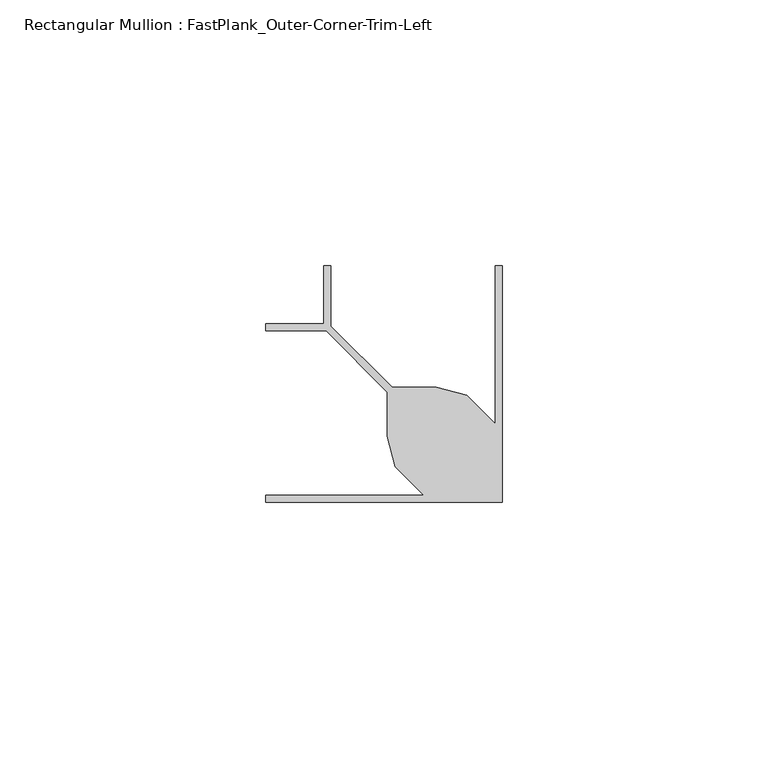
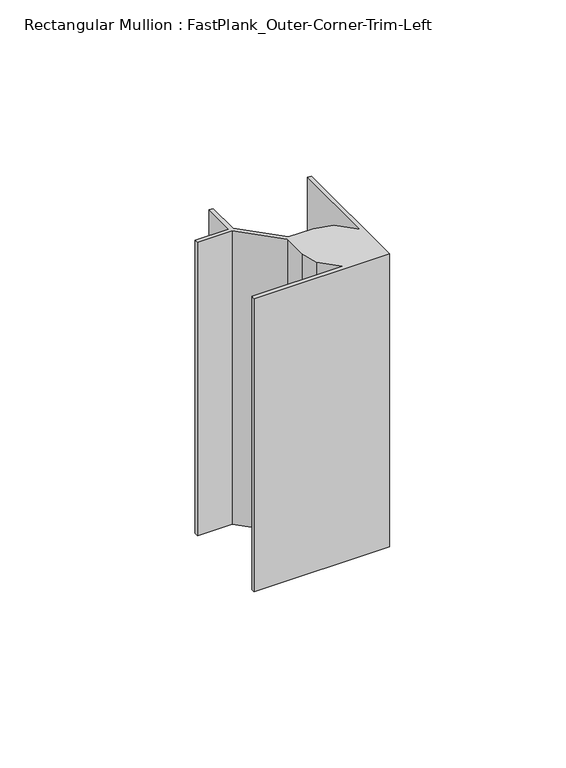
"""IFC4 building model written with IfcOpenShell, lengths in millimetres: member geometry, Rectangular Mullion : FastPlank_Outer-Corner-Trim-Left."""

import ifcopenshell
import ifcopenshell.guid

model = None  # the IFC model being written
_history = None  # IfcOwnerHistory: only IFC2X3 demands one
_inside = {}  # id of a spatial element -> (the spatial element, [elements in it])
_under = {}  # id of a project, library or spatial element -> (it, [spatial elements below it])
_declared = {}  # id of a project -> (the project, [libraries it declares])
_typed = {}  # id of a type object -> (the type object, [elements of that type])
_made_of = {}  # id of a material, layer set ... -> (it, [elements and type objects made of it])


def new_model(schema):
    """Start an empty IFC model of exactly this schema.

    Asked for "IFC4X3", IfcOpenShell would pick the latest addendum, in which some entities
    have other attributes; the version numbers below select the first issue.
    IFC2X3 requires an IfcOwnerHistory on every rooted entity: one is made here for all.
    """
    global model, _history
    if schema == "IFC4X3":
        model = ifcopenshell.file(schema_version=(4, 3, 0, 0))
    else:
        model = ifcopenshell.file(schema=schema)
    _inside.clear()
    _under.clear()
    _declared.clear()
    _typed.clear()
    _made_of.clear()
    _history = None
    if model.schema == "IFC2X3":
        org = make("IfcOrganization", Name="unknown")
        user = make(
            "IfcPersonAndOrganization",
            ThePerson=make("IfcPerson", FamilyName="unknown"),
            TheOrganization=org,
        )
        app = make(
            "IfcApplication",
            ApplicationDeveloper=org,
            Version="unknown",
            ApplicationFullName="unknown",
            ApplicationIdentifier="unknown",
        )
        _history = make(
            "IfcOwnerHistory",
            OwningUser=user,
            OwningApplication=app,
            ChangeAction="ADDED",
            CreationDate=0,
        )
    return model


def make(cls, **values):
    """One entity of the class cls with the attributes given. An attribute that is None is left unset."""
    return model.create_entity(
        cls, **{name: value for name, value in values.items() if value is not None}
    )


def rooted(cls, **values):
    """An entity with a GlobalId (a new one), such as an element, a storey or a relation."""
    return make(cls, GlobalId=ifcopenshell.guid.new(), OwnerHistory=_history, **values)


def si_unit(unit_type, name, prefix=None):
    """IfcSIUnit, for example si_unit("LENGTHUNIT", "METRE", prefix="MILLI")."""
    return make("IfcSIUnit", UnitType=unit_type, Prefix=prefix, Name=name)


def assignment(units):
    """IfcUnitAssignment: the units of a project."""
    return None if units is None else make("IfcUnitAssignment", Units=units)


def point(xyz):
    """IfcCartesianPoint."""
    return None if xyz is None else make("IfcCartesianPoint", Coordinates=xyz)


def direction(xyz):
    """IfcDirection."""
    return None if xyz is None else make("IfcDirection", DirectionRatios=xyz)


def frame(location, z_axis=None, x_axis=None):
    """IfcAxis2Placement3D, a coordinate frame: its origin and axes. An axis left out is left unset."""
    return make(
        "IfcAxis2Placement3D",
        Location=point(location),
        Axis=direction(z_axis),
        RefDirection=direction(x_axis),
    )


def origin():
    """The frame at (0, 0, 0) with its axes left unset."""
    return frame((0.0, 0.0, 0.0))


def place(relative_to, where):
    """IfcLocalPlacement: puts the frame where relative to a parent placement (None: the world)."""
    return make(
        "IfcLocalPlacement", PlacementRelTo=relative_to, RelativePlacement=where
    )


def context(
    kind, dimensions, precision=None, world=None, true_north=None, identifier=None
):
    """IfcGeometricRepresentationContext, for example the 3D "Model" context."""
    return make(
        "IfcGeometricRepresentationContext",
        ContextIdentifier=identifier,
        ContextType=kind,
        CoordinateSpaceDimension=dimensions,
        Precision=precision,
        WorldCoordinateSystem=world,
        TrueNorth=true_north,
    )


def project(units=None, contexts=None):
    """IfcProject with its units and contexts."""
    return rooted(
        "IfcProject",
        Name="project",
        RepresentationContexts=contexts,
        UnitsInContext=assignment(units),
    )


def spatial(cls, under=None, at=None, **own):
    """A site, building, storey or space (cls), placed at a placement, below another one or the project."""
    s = rooted(cls, ObjectPlacement=at, **own)
    if under is not None:
        _under.setdefault(under.id(), (under, []))[1].append(s)
    return s


def polyline(points):
    """IfcPolyline through the points."""
    return make("IfcPolyline", Points=[point(p) for p in points])


def outline(outer, holes=None, kind="AREA"):
    """IfcArbitraryClosedProfileDef: a profile drawn as a closed curve; with holes, ...WithVoids."""
    if holes is None:
        return make("IfcArbitraryClosedProfileDef", ProfileType=kind, OuterCurve=outer)
    return make(
        "IfcArbitraryProfileDefWithVoids",
        ProfileType=kind,
        OuterCurve=outer,
        InnerCurves=holes,
    )


def extrude(swept, where, along, depth):
    """IfcExtrudedAreaSolid: the profile swept, set in the frame where, extruded along a direction by depth."""
    return make(
        "IfcExtrudedAreaSolid",
        SweptArea=swept,
        Position=where,
        ExtrudedDirection=direction(along),
        Depth=depth,
    )


def shape(context_of_items, identifier, shape_type, items):
    """IfcShapeRepresentation: the items that make up one representation, for example the "Body"."""
    return make(
        "IfcShapeRepresentation",
        ContextOfItems=context_of_items,
        RepresentationIdentifier=identifier,
        RepresentationType=shape_type,
        Items=items,
    )


def source(mapping_origin, context_of_items, identifier, shape_type, items):
    """IfcRepresentationMap: a shape defined once, which mapped items show again and again."""
    return make(
        "IfcRepresentationMap",
        MappingOrigin=mapping_origin,
        MappedRepresentation=shape(context_of_items, identifier, shape_type, items),
    )


def transform(
    local_origin,
    x_axis=None,
    y_axis=None,
    z_axis=None,
    scale=None,
    scale2=None,
    scale3=None,
    uniform=True,
):
    """IfcCartesianTransformationOperator3D, or its non-uniform kind. x_axis, y_axis, z_axis: its Axis1, 2, 3."""
    if uniform:
        return make(
            "IfcCartesianTransformationOperator3D",
            Axis1=direction(x_axis),
            Axis2=direction(y_axis),
            LocalOrigin=point(local_origin),
            Scale=scale,
            Axis3=direction(z_axis),
        )
    return make(
        "IfcCartesianTransformationOperator3DnonUniform",
        Axis1=direction(x_axis),
        Axis2=direction(y_axis),
        LocalOrigin=point(local_origin),
        Scale=scale,
        Axis3=direction(z_axis),
        Scale2=scale2,
        Scale3=scale3,
    )


def mapped(mapping_source, mapping_target):
    """IfcMappedItem: shows the shape of a source again, moved by a transform."""
    return make(
        "IfcMappedItem", MappingSource=mapping_source, MappingTarget=mapping_target
    )


def made_of(thing, what):
    """Note that an element or type object is made of a material, layer set ...; save() writes the relation."""
    if what is not None:
        _made_of.setdefault(what.id(), (what, []))[1].append(thing)
    return thing


def element(
    cls,
    number,
    at=None,
    inside=None,
    cuts=None,
    type_object=None,
    material=None,
    context=None,
    identifier="Body",
    shape_type=None,
    held_by="IfcProductDefinitionShape",
    body=None,
    shapes=None,
    **own,
):
    """One element of the class cls, such as IfcWall. Its Tag is "e" and its number.

    at: its placement. inside: the storey or other place that contains it. cuts: it is an
    opening in that element (IfcRelVoidsElement). A single representation is given by context,
    identifier, shape_type and body (its items); several are given by shapes. held_by: the class
    of the entity that holds the representations. save() writes the other relations.
    """
    e = rooted(cls, Tag="e%d" % number, ObjectPlacement=at, **own)
    if body is not None:
        shapes = [shape(context, identifier, shape_type, body)]
    if shapes is not None:
        e.Representation = make(held_by, Representations=shapes)
    if inside is not None:
        _inside.setdefault(inside.id(), (inside, []))[1].append(e)
    if cuts is not None:
        rooted(
            "IfcRelVoidsElement", RelatingBuildingElement=cuts, RelatedOpeningElement=e
        )
    if type_object is not None:
        _typed.setdefault(type_object.id(), (type_object, []))[1].append(e)
    return made_of(e, material)


def aggregate(whole, parts):
    """IfcRelAggregates: a whole, such as a stair, and the parts it consists of."""
    return rooted("IfcRelAggregates", RelatingObject=whole, RelatedObjects=parts)


def save(model, path):
    """Write the relations noted so far, then the file.

    IfcRelAggregates (storeys below a building ...), IfcRelContainedInSpatialStructure (elements
    in a storey), IfcRelDefinesByType, IfcRelAssociatesMaterial and IfcRelDeclares: one each for
    every whole, place, type object, material and project.
    """
    for whole, parts in _under.values():
        aggregate(whole, parts)
    for where, things in _inside.values():
        rooted(
            "IfcRelContainedInSpatialStructure",
            RelatedElements=things,
            RelatingStructure=where,
        )
    for kind, things in _typed.values():
        rooted("IfcRelDefinesByType", RelatedObjects=things, RelatingType=kind)
    for what, things in _made_of.values():
        rooted("IfcRelAssociatesMaterial", RelatedObjects=things, RelatingMaterial=what)
    for by, libraries in _declared.values():
        rooted("IfcRelDeclares", RelatingContext=by, RelatedDefinitions=libraries)
    model.write(path)


def rectangular_mullion_fastplank_outer_corner_trim_left_9bb45c03(model_context):
    return source(origin(), model_context, "Body", "SweptSolid", [
        extrude(outline(polyline([(0.0, 22.7926044), (0.0, -21.6481418), (-44.4407461, -21.6481418), (-44.4407461, -20.3481444), (-14.7093055, -20.3481444), (-20.0837776, -14.9736723), (-21.6227418, -9.2301797), (-21.6227418, -0.944637), (-33.1191726, 10.5517938), (-44.4407461, 10.5517938), (-44.4407461, 11.8517912), (-33.499933, 11.8517912), (-33.499933, 22.7926044), (-32.1999356, 22.7926044), (-32.1999356, 11.4710308), (-20.7035048, -0.0254), (-12.417962, -0.0254), (-6.6744694, -1.5643642), (-1.2999974, -6.9388362), (-1.2999974, 22.7926044), (0.0, 22.7926044)])), frame((0.0, 0.0, -101.6), z_axis=(0.0, 0.0, 1.0), x_axis=(1.0, 0.0, 0.0)), (0.0, 0.0, 1.0), 101.6),
    ])


if __name__ == "__main__":
    model = new_model("IFC4")
    model_context = context("Model", 3, world=origin())
    ifc_project = project(units=[si_unit("LENGTHUNIT", "METRE", prefix="MILLI")], contexts=[model_context])
    site = spatial("IfcSite", under=ifc_project)
    building = spatial("IfcBuilding", under=site)
    placement = place(None, origin())
    rectangular_mullion_fastplank_outer_corner_trim_left_shape = rectangular_mullion_fastplank_outer_corner_trim_left_9bb45c03(model_context)
    element("IfcMember", 1, ObjectType="Rectangular Mullion : FastPlank_Outer-Corner-Trim-Left", at=placement, inside=building, context=model_context, shape_type="MappedRepresentation", body=[
        mapped(rectangular_mullion_fastplank_outer_corner_trim_left_shape, transform((0.0, 0.0, 0.0), x_axis=(1.0, 0.0, 0.0), y_axis=(0.0, 1.0, 0.0), z_axis=(0.0, 0.0, 1.0))),
    ])
    save(model, "model.ifc")
